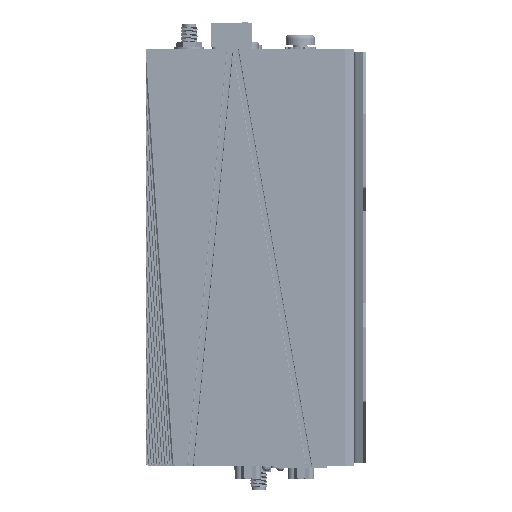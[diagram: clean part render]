
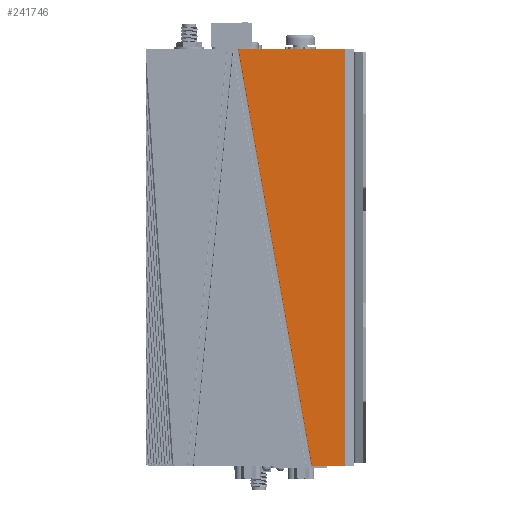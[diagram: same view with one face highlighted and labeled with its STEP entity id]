
A CAD part, left-side view. The second image highlights one B-rep face of the part: STEP entity #241746.
In plain terms, the highlighted planar face has unit normal (-1, 0, 0).
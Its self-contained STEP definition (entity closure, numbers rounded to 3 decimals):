
#34805=DIRECTION('',(0.,-1.,0.));
#34806=VECTOR('',#34805,11.8);
#34807=CARTESIAN_POINT('',(-125.,-29.198,-75.));
#34808=LINE('',#34807,#34806);
#58013=DIRECTION('',(0.,1.,0.));
#58014=VECTOR('',#58013,38.249);
#58015=CARTESIAN_POINT('',(-125.,-40.997,75.));
#58016=LINE('',#58015,#58014);
#58149=DIRECTION('',(0.,0.,1.));
#58150=VECTOR('',#58149,150.);
#58151=CARTESIAN_POINT('',(-125.,-40.997,-75.));
#58152=LINE('',#58151,#58150);
#58157=DIRECTION('',(0.,0.174,0.985));
#58158=VECTOR('',#58157,152.314);
#58159=CARTESIAN_POINT('',(-125.,-29.198,-75.));
#58160=LINE('',#58159,#58158);
#140659=CARTESIAN_POINT('',(-125.,-29.198,-75.));
#140660=VERTEX_POINT('',#140659);
#140661=CARTESIAN_POINT('',(-125.,-40.997,-75.));
#140662=VERTEX_POINT('',#140661);
#141602=CARTESIAN_POINT('',(-125.,-40.997,75.));
#141603=VERTEX_POINT('',#141602);
#141604=CARTESIAN_POINT('',(-125.,-2.749,75.));
#141605=VERTEX_POINT('',#141604);
#241734=CARTESIAN_POINT('',(-125.,20.7,-75.));
#241735=DIRECTION('',(-1.,0.,0.));
#241736=DIRECTION('',(0.,-1.,0.));
#241737=AXIS2_PLACEMENT_3D('',#241734,#241735,#241736);
#241738=PLANE('',#241737);
#241739=ORIENTED_EDGE('',*,*,#241720,.F.);
#241740=ORIENTED_EDGE('',*,*,#204757,.F.);
#241742=ORIENTED_EDGE('',*,*,#241741,.T.);
#241743=ORIENTED_EDGE('',*,*,#241566,.F.);
#241744=EDGE_LOOP('',(#241739,#241740,#241742,#241743));
#241745=FACE_OUTER_BOUND('',#241744,.F.);
#204757=EDGE_CURVE('',#140660,#140662,#34808,.T.);
#241566=EDGE_CURVE('',#141603,#141605,#58016,.T.);
#241720=EDGE_CURVE('',#140662,#141603,#58152,.T.);
#241741=EDGE_CURVE('',#140660,#141605,#58160,.T.);
#241746=ADVANCED_FACE('',(#241745),#241738,.T.);
